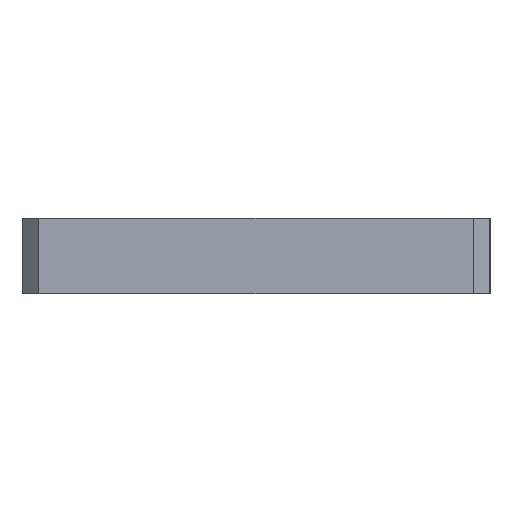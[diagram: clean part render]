
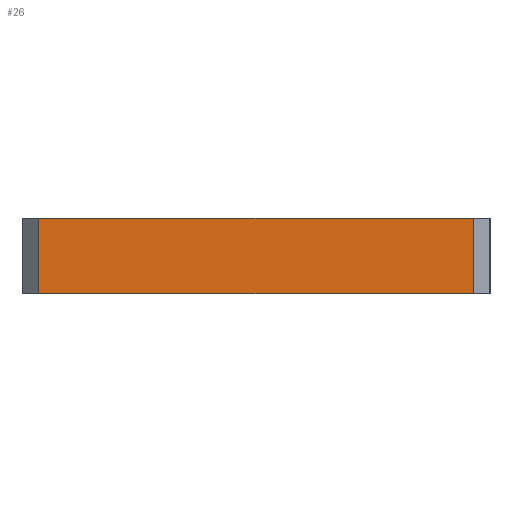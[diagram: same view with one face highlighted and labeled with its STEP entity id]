
A CAD part, left-side view. The second image highlights one B-rep face of the part: STEP entity #26.
In plain terms, the highlighted planar face has unit normal (-1, 0, 0).
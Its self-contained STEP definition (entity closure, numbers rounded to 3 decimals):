
#26 = ADVANCED_FACE ( 'NONE', ( #1289 ), #1583, .F. ) ;
#41 = ORIENTED_EDGE ( 'NONE', *, *, #1124, .T. ) ;
#58 = LINE ( 'NONE', #1639, #836 ) ;
#79 = CARTESIAN_POINT ( 'NONE',  ( -49., 8., 0. ) ) ;
#122 = VECTOR ( 'NONE', #209, 1000. ) ;
#209 = DIRECTION ( 'NONE',  ( 0., -1., 0. ) ) ;
#253 = ORIENTED_EDGE ( 'NONE', *, *, #1367, .F. ) ;
#307 = EDGE_LOOP ( 'NONE', ( #41, #253, #742, #1296 ) ) ;
#334 = VECTOR ( 'NONE', #610, 1000. ) ;
#376 = VERTEX_POINT ( 'NONE', #1653 ) ;
#388 = CARTESIAN_POINT ( 'NONE',  ( -49., 8., 9. ) ) ;
#496 = VERTEX_POINT ( 'NONE', #1248 ) ;
#549 = EDGE_CURVE ( 'NONE', #1386, #496, #975, .T. ) ;
#577 = LINE ( 'NONE', #388, #122 ) ;
#590 = VECTOR ( 'NONE', #1660, 1000. ) ;
#610 = DIRECTION ( 'NONE',  ( 0., 0., -1. ) ) ;
#668 = EDGE_CURVE ( 'NONE', #1386, #1728, #577, .T. ) ;
#715 = CARTESIAN_POINT ( 'NONE',  ( -49., 8., 9. ) ) ;
#742 = ORIENTED_EDGE ( 'NONE', *, *, #668, .F. ) ;
#788 = CARTESIAN_POINT ( 'NONE',  ( -49., 8., 9. ) ) ;
#814 = LINE ( 'NONE', #79, #590 ) ;
#836 = VECTOR ( 'NONE', #1480, 1000. ) ;
#975 = LINE ( 'NONE', #788, #334 ) ;
#1061 = DIRECTION ( 'NONE',  ( 0., 0., -1. ) ) ;
#1124 = EDGE_CURVE ( 'NONE', #496, #376, #814, .T. ) ;
#1247 = DIRECTION ( 'NONE',  ( 1., 0., 0. ) ) ;
#1248 = CARTESIAN_POINT ( 'NONE',  ( -49., 8., 0. ) ) ;
#1252 = AXIS2_PLACEMENT_3D ( 'NONE', #1426, #1247, #1061 ) ;
#1289 = FACE_OUTER_BOUND ( 'NONE', #307, .T. ) ;
#1296 = ORIENTED_EDGE ( 'NONE', *, *, #549, .T. ) ;
#1335 = CARTESIAN_POINT ( 'NONE',  ( -49., -44., 9. ) ) ;
#1367 = EDGE_CURVE ( 'NONE', #1728, #376, #58, .T. ) ;
#1386 = VERTEX_POINT ( 'NONE', #715 ) ;
#1426 = CARTESIAN_POINT ( 'NONE',  ( -49., 8., 9. ) ) ;
#1480 = DIRECTION ( 'NONE',  ( 0., 0., -1. ) ) ;
#1583 = PLANE ( 'NONE',  #1252 ) ;
#1639 = CARTESIAN_POINT ( 'NONE',  ( -49., -44., 9. ) ) ;
#1653 = CARTESIAN_POINT ( 'NONE',  ( -49., -44., 0. ) ) ;
#1660 = DIRECTION ( 'NONE',  ( 0., -1., 0. ) ) ;
#1728 = VERTEX_POINT ( 'NONE', #1335 ) ;
